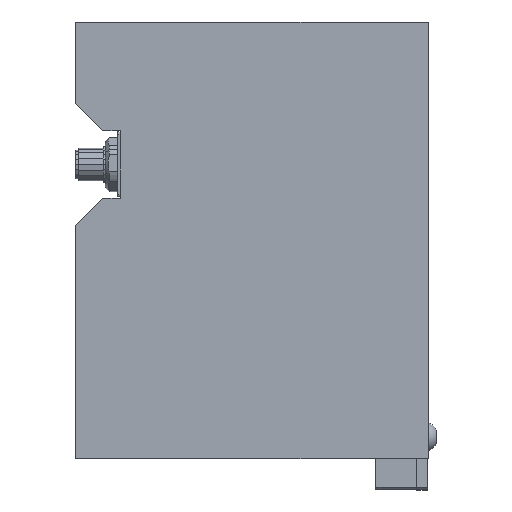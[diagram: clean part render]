
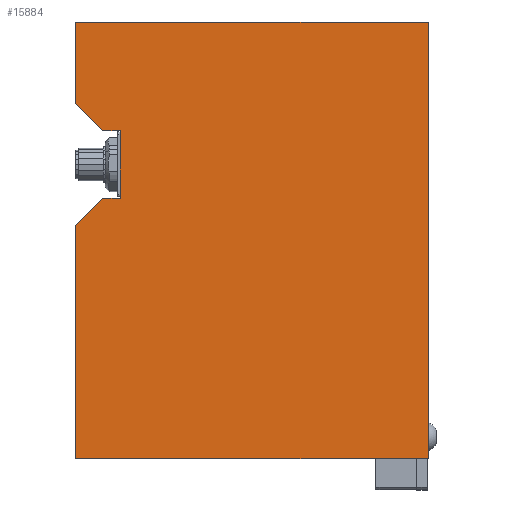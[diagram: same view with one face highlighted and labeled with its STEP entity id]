
A CAD part, front view. The second image highlights one B-rep face of the part: STEP entity #15884.
In plain terms, the highlighted planar face has unit normal (0, -1, 0).
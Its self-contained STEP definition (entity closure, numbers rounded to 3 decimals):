
#187 = EDGE_CURVE ( 'NONE', #21278, #7333, #19851, .T. ) ;
#543 = ORIENTED_EDGE ( 'NONE', *, *, #187, .T. ) ;
#588 = ORIENTED_EDGE ( 'NONE', *, *, #12916, .F. ) ;
#702 = CARTESIAN_POINT ( 'NONE',  ( -277.5, 20.354, 40.5 ) ) ;
#784 = VERTEX_POINT ( 'NONE', #16932 ) ;
#795 = CARTESIAN_POINT ( 'NONE',  ( -157.5, 20.354, -80.5 ) ) ;
#816 = ORIENTED_EDGE ( 'NONE', *, *, #2440, .T. ) ;
#1066 = CARTESIAN_POINT ( 'NONE',  ( -277.5, 20.354, 40.5 ) ) ;
#1523 = EDGE_CURVE ( 'NONE', #5001, #784, #5019, .T. ) ;
#1994 = VECTOR ( 'NONE', #11118, 1000. ) ;
#2075 = LINE ( 'NONE', #12072, #6533 ) ;
#2440 = EDGE_CURVE ( 'NONE', #13658, #5001, #21330, .T. ) ;
#2485 = DIRECTION ( 'NONE',  ( -1., 0., 0. ) ) ;
#2588 = CARTESIAN_POINT ( 'NONE',  ( -157.5, 20.354, -80.5 ) ) ;
#2914 = DIRECTION ( 'NONE',  ( 0., 0., -1. ) ) ;
#2924 = ORIENTED_EDGE ( 'NONE', *, *, #17239, .T. ) ;
#3072 = CARTESIAN_POINT ( 'NONE',  ( -277.5, 20.354, 15.5 ) ) ;
#3085 = CARTESIAN_POINT ( 'NONE',  ( -118.7, 20.354, -80.5 ) ) ;
#3338 = EDGE_CURVE ( 'NONE', #20118, #784, #19194, .T. ) ;
#3640 = VECTOR ( 'NONE', #4822, 1000. ) ;
#3951 = VECTOR ( 'NONE', #8028, 1000. ) ;
#4168 = LINE ( 'NONE', #19577, #3640 ) ;
#4431 = DIRECTION ( 'NONE',  ( 0., 0., -1. ) ) ;
#4591 = LINE ( 'NONE', #12676, #12349 ) ;
#4734 = VECTOR ( 'NONE', #5860, 1000. ) ;
#4759 = DIRECTION ( 'NONE',  ( -1., 0., 0. ) ) ;
#4822 = DIRECTION ( 'NONE',  ( 0., 0., 1. ) ) ;
#5001 = VERTEX_POINT ( 'NONE', #20981 ) ;
#5019 = LINE ( 'NONE', #13929, #17692 ) ;
#5860 = DIRECTION ( 'NONE',  ( 0., 0., 1. ) ) ;
#5902 = CARTESIAN_POINT ( 'NONE',  ( -287.5, 20.354, 80.5 ) ) ;
#5979 = VECTOR ( 'NONE', #18275, 1000. ) ;
#6199 = ORIENTED_EDGE ( 'NONE', *, *, #18561, .F. ) ;
#6533 = VECTOR ( 'NONE', #15469, 1000. ) ;
#6562 = ORIENTED_EDGE ( 'NONE', *, *, #19991, .T. ) ;
#6667 = VERTEX_POINT ( 'NONE', #702 ) ;
#6743 = EDGE_CURVE ( 'NONE', #18338, #21278, #17941, .T. ) ;
#7215 = ORIENTED_EDGE ( 'NONE', *, *, #6743, .T. ) ;
#7333 = VERTEX_POINT ( 'NONE', #5902 ) ;
#7418 = ORIENTED_EDGE ( 'NONE', *, *, #18230, .T. ) ;
#8028 = DIRECTION ( 'NONE',  ( -1., 0., 0. ) ) ;
#11007 = CARTESIAN_POINT ( 'NONE',  ( -271., 20.354, 15.5 ) ) ;
#11061 = VECTOR ( 'NONE', #2485, 1000. ) ;
#11118 = DIRECTION ( 'NONE',  ( 0.707, 0., -0.707 ) ) ;
#12072 = CARTESIAN_POINT ( 'NONE',  ( -271., 20.354, 40.5 ) ) ;
#12275 = DIRECTION ( 'NONE',  ( -0.707, 0., -0.707 ) ) ;
#12349 = VECTOR ( 'NONE', #4431, 1000. ) ;
#12636 = FACE_OUTER_BOUND ( 'NONE', #19495, .T. ) ;
#12676 = CARTESIAN_POINT ( 'NONE',  ( -271., 20.354, 15.5 ) ) ;
#12853 = DIRECTION ( 'NONE',  ( 0., -1., 0. ) ) ;
#12916 = EDGE_CURVE ( 'NONE', #18338, #20118, #16659, .T. ) ;
#13069 = CARTESIAN_POINT ( 'NONE',  ( -157.5, 20.354, 80.5 ) ) ;
#13122 = CARTESIAN_POINT ( 'NONE',  ( -287.5, 20.354, -80.5 ) ) ;
#13658 = VERTEX_POINT ( 'NONE', #11007 ) ;
#13929 = CARTESIAN_POINT ( 'NONE',  ( -290.5, 20.354, 2.5 ) ) ;
#13945 = CARTESIAN_POINT ( 'NONE',  ( -290.5, 20.354, 80.5 ) ) ;
#14199 = LINE ( 'NONE', #1066, #1994 ) ;
#15469 = DIRECTION ( 'NONE',  ( 1., 0., 0. ) ) ;
#15884 = ADVANCED_FACE ( 'NONE', ( #12636 ), #17771, .T. ) ;
#16099 = CARTESIAN_POINT ( 'NONE',  ( -204.6, 20.354, 9. ) ) ;
#16601 = CARTESIAN_POINT ( 'NONE',  ( -287.5, 20.354, 9. ) ) ;
#16659 = LINE ( 'NONE', #3085, #3951 ) ;
#16932 = CARTESIAN_POINT ( 'NONE',  ( -287.5, 20.354, 5.5 ) ) ;
#16967 = VERTEX_POINT ( 'NONE', #19453 ) ;
#17239 = EDGE_CURVE ( 'NONE', #19780, #13658, #4591, .T. ) ;
#17692 = VECTOR ( 'NONE', #12275, 1000. ) ;
#17771 = PLANE ( 'NONE',  #21481 ) ;
#17868 = ORIENTED_EDGE ( 'NONE', *, *, #3338, .F. ) ;
#17941 = LINE ( 'NONE', #2588, #4734 ) ;
#18045 = ORIENTED_EDGE ( 'NONE', *, *, #1523, .T. ) ;
#18230 = EDGE_CURVE ( 'NONE', #6667, #19780, #2075, .T. ) ;
#18275 = DIRECTION ( 'NONE',  ( 0., 0., 1. ) ) ;
#18313 = CARTESIAN_POINT ( 'NONE',  ( -271., 20.354, 40.5 ) ) ;
#18338 = VERTEX_POINT ( 'NONE', #795 ) ;
#18561 = EDGE_CURVE ( 'NONE', #16967, #7333, #4168, .T. ) ;
#19194 = LINE ( 'NONE', #16601, #5979 ) ;
#19453 = CARTESIAN_POINT ( 'NONE',  ( -287.5, 20.354, 50.5 ) ) ;
#19495 = EDGE_LOOP ( 'NONE', ( #17868, #588, #7215, #543, #6199, #6562, #7418, #2924, #816, #18045 ) ) ;
#19577 = CARTESIAN_POINT ( 'NONE',  ( -287.5, 20.354, 9. ) ) ;
#19780 = VERTEX_POINT ( 'NONE', #18313 ) ;
#19851 = LINE ( 'NONE', #13945, #11061 ) ;
#19991 = EDGE_CURVE ( 'NONE', #16967, #6667, #14199, .T. ) ;
#20118 = VERTEX_POINT ( 'NONE', #13122 ) ;
#20805 = VECTOR ( 'NONE', #4759, 1000. ) ;
#20981 = CARTESIAN_POINT ( 'NONE',  ( -277.5, 20.354, 15.5 ) ) ;
#21278 = VERTEX_POINT ( 'NONE', #13069 ) ;
#21330 = LINE ( 'NONE', #3072, #20805 ) ;
#21481 = AXIS2_PLACEMENT_3D ( 'NONE', #16099, #12853, #2914 ) ;
